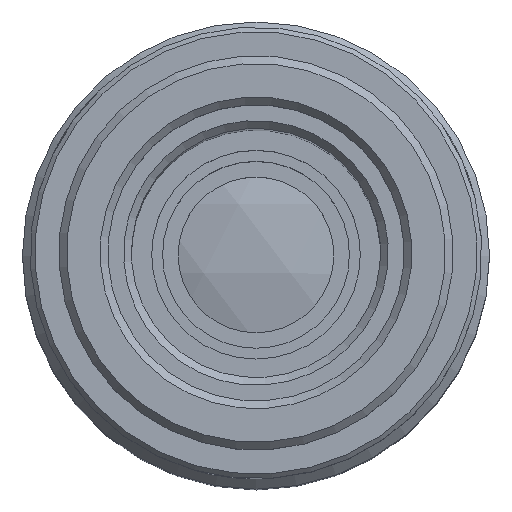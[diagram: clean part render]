
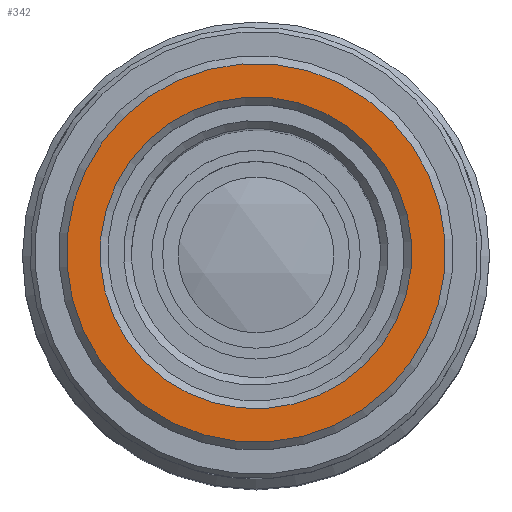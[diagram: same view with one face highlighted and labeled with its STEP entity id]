
A CAD part, top view. The second image highlights one B-rep face of the part: STEP entity #342.
In plain terms, the highlighted planar face has unit normal (0, 0, 1).
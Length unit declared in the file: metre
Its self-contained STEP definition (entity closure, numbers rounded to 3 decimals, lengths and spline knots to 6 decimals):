
#342=ADVANCED_FACE('NONE',(#827,#828),#829,.F.);
#827=FACE_BOUND('',#1515,.T.);
#828=FACE_OUTER_BOUND('',#1516,.T.);
#829=PLANE('',#1517);
#1515=EDGE_LOOP('',(#2420));
#1516=EDGE_LOOP('',(#2421));
#1517=AXIS2_PLACEMENT_3D('',#2422,#2423,#2424);
#2420=ORIENTED_EDGE('',*,*,#3393,.T.);
#2421=ORIENTED_EDGE('',*,*,#3394,.T.);
#2422=CARTESIAN_POINT('',(0.005737,0.017659,0.0915));
#2423=DIRECTION('',(0.,0.0,-1.0));
#2424=DIRECTION('',(-1.0,0.0,0.));
#3393=EDGE_CURVE('NONE',#3956,#3956,#3957,.T.);
#3394=EDGE_CURVE('NONE',#3958,#3958,#3959,.T.);
#3956=VERTEX_POINT('',#4899);
#3957=CIRCLE('',#4900,0.01001);
#3958=VERTEX_POINT('',#4901);
#3959=CIRCLE('',#4902,0.01216);
#4899=CARTESIAN_POINT('',(-0.00551,0.006084,0.0915));
#4900=AXIS2_PLACEMENT_3D('',#5566,#5567,#5568);
#4901=CARTESIAN_POINT('',(-0.007649,0.006303,0.0915));
#4902=AXIS2_PLACEMENT_3D('',#5569,#5570,#5571);
#5566=CARTESIAN_POINT('',(0.004447,0.005065,0.0915));
#5567=DIRECTION('',(0.,0.0,-1.0));
#5568=DIRECTION('',(-0.995,0.102,0.));
#5569=CARTESIAN_POINT('',(0.004447,0.005065,0.0915));
#5570=DIRECTION('',(0.,0.0,1.0));
#5571=DIRECTION('',(-0.995,0.102,0.));
